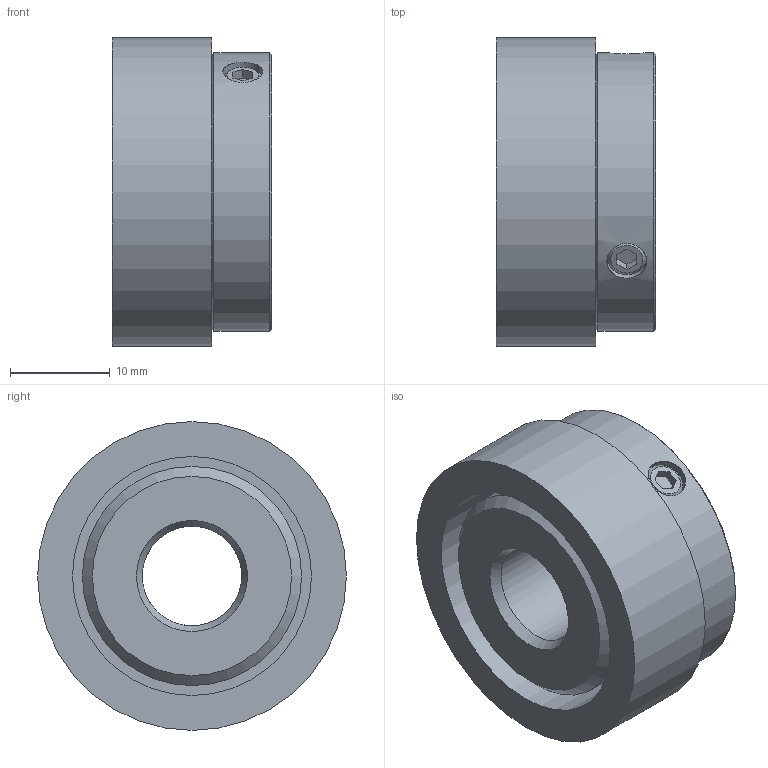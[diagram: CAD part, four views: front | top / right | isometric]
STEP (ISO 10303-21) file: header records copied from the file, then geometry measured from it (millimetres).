
FILE_DESCRIPTION (( 'STEP AP203' ), '1' );
FILE_NAME ('8.RI20.031.1000.111.STEP', '2013-07-30T11:16:22', ( 'Hodot' ), ( '' ), 'SwSTEP 2.0', 'SolidWorks 2012', '' );
FILE_SCHEMA (( 'CONFIG_CONTROL_DESIGN' ));
Length unit declared in the file: millimetre
Products named in the file (1): 8.RI20.031.1000.111
Bounding box: 16 x 31 x 31 mm (x, y, z)
Volume: 8966 mm3; surface area: 5435.4 mm2
Topology: 4 solids, 4 shells, 49 faces, 107 edges, 70 vertices
Faces by surface type: plane 26, cylinder 15, cone 8
Full cylindrical faces by diameter (mm): 2.5 x2, 4 x4, 10 x1, 22 x1, 24 x1, 28 x1, 31 x1
Entity records: 1461 total; most frequent: CARTESIAN_POINT 416, DIRECTION 200, ORIENTED_EDGE 160, AXIS2_PLACEMENT_3D 82, EDGE_CURVE 80, EDGE_LOOP 80, VERTEX_POINT 62, FACE_OUTER_BOUND 60
